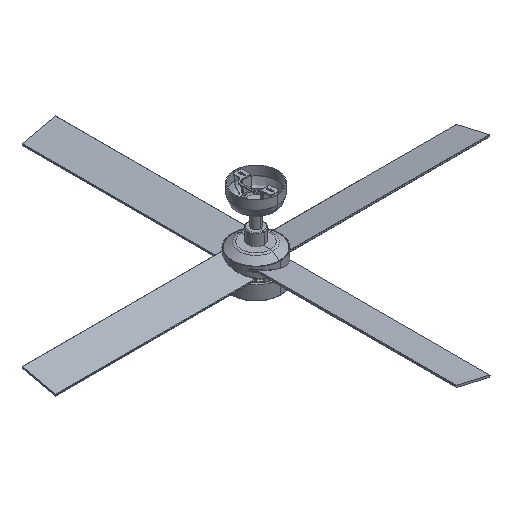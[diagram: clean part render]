
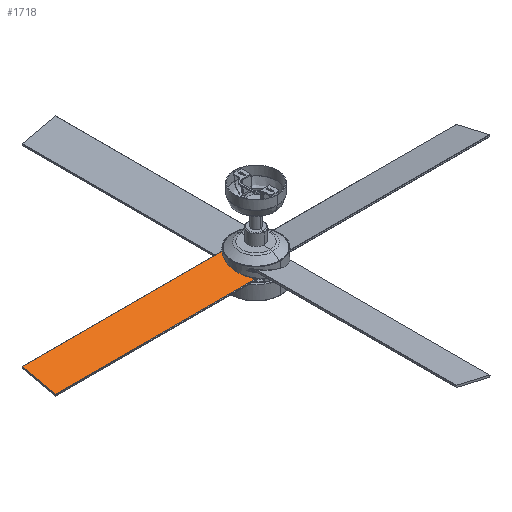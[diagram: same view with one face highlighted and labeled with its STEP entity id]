
A CAD part, isometric view. The second image highlights one B-rep face of the part: STEP entity #1718.
In plain terms, the highlighted planar face has unit normal (0, -0.225, 0.974).
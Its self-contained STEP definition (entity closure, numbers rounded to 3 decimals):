
#132=FACE_BOUND('',#2305,.T.);
#133=FACE_BOUND('',#2306,.T.);
#134=FACE_BOUND('',#2307,.T.);
#1718=ADVANCED_FACE('',(#2005,#132,#133,#134),#6285,.T.);
#2005=FACE_OUTER_BOUND('',#2304,.T.);
#2304=EDGE_LOOP('',(#2800,#2801,#2802,#2803,#2804,#2805));
#2305=EDGE_LOOP('',(#2806,#2807));
#2306=EDGE_LOOP('',(#2808,#2809));
#2307=EDGE_LOOP('',(#2810,#2811));
#2800=ORIENTED_EDGE('',*,*,#4214,.T.);
#2801=ORIENTED_EDGE('',*,*,#4191,.F.);
#2802=ORIENTED_EDGE('',*,*,#4215,.T.);
#2803=ORIENTED_EDGE('',*,*,#4195,.T.);
#2804=ORIENTED_EDGE('',*,*,#4216,.T.);
#2805=ORIENTED_EDGE('',*,*,#4217,.T.);
#2806=ORIENTED_EDGE('',*,*,#4211,.T.);
#2807=ORIENTED_EDGE('',*,*,#4212,.T.);
#2808=ORIENTED_EDGE('',*,*,#4205,.T.);
#2809=ORIENTED_EDGE('',*,*,#4206,.T.);
#2810=ORIENTED_EDGE('',*,*,#4199,.T.);
#2811=ORIENTED_EDGE('',*,*,#4200,.T.);
#4191=EDGE_CURVE('',#5859,#5856,#4909,.T.);
#4195=EDGE_CURVE('',#5861,#5863,#5381,.T.);
#4199=EDGE_CURVE('',#5865,#5867,#5383,.T.);
#4200=EDGE_CURVE('',#5867,#5865,#5384,.T.);
#4205=EDGE_CURVE('',#5869,#5871,#5387,.T.);
#4206=EDGE_CURVE('',#5871,#5869,#5388,.T.);
#4211=EDGE_CURVE('',#5873,#5875,#5391,.T.);
#4212=EDGE_CURVE('',#5875,#5873,#5392,.T.);
#4214=EDGE_CURVE('',#5876,#5856,#4918,.T.);
#4215=EDGE_CURVE('',#5859,#5861,#4919,.T.);
#4216=EDGE_CURVE('',#5863,#5877,#4920,.T.);
#4217=EDGE_CURVE('',#5877,#5876,#4921,.T.);
#4909=B_SPLINE_CURVE_WITH_KNOTS('',1,(#8211,#8212),.UNSPECIFIED.,.F.,.F.,
(2,2),(0.,630.),.UNSPECIFIED.);
#4918=B_SPLINE_CURVE_WITH_KNOTS('',1,(#8271,#8272),.UNSPECIFIED.,.F.,.F.,
(2,2),(0.,103.),.UNSPECIFIED.);
#4919=B_SPLINE_CURVE_WITH_KNOTS('',1,(#8273,#8274),.UNSPECIFIED.,.F.,.F.,
(2,2),(0.,6.315),.UNSPECIFIED.);
#4920=B_SPLINE_CURVE_WITH_KNOTS('',1,(#8275,#8276),.UNSPECIFIED.,.F.,.F.,
(2,2),(0.,4.435),.UNSPECIFIED.);
#4921=B_SPLINE_CURVE_WITH_KNOTS('',1,(#8277,#8278),.UNSPECIFIED.,.F.,.F.,
(2,2),(0.,630.),.UNSPECIFIED.);
#5381=TRIMMED_CURVE($,#5610,(#8221),(#8222),.T.,.CARTESIAN.);
#5383=TRIMMED_CURVE($,#5612,(#8231),(#8232),.T.,.CARTESIAN.);
#5384=TRIMMED_CURVE($,#5613,(#8234),(#8235),.T.,.CARTESIAN.);
#5387=TRIMMED_CURVE($,#5616,(#8247),(#8248),.T.,.CARTESIAN.);
#5388=TRIMMED_CURVE($,#5617,(#8250),(#8251),.T.,.CARTESIAN.);
#5391=TRIMMED_CURVE($,#5620,(#8263),(#8264),.T.,.CARTESIAN.);
#5392=TRIMMED_CURVE($,#5621,(#8266),(#8267),.T.,.CARTESIAN.);
#5610=CIRCLE('',#6714,53.78);
#5612=CIRCLE('',#6716,2.5);
#5613=CIRCLE('',#6717,2.5);
#5616=CIRCLE('',#6720,2.5);
#5617=CIRCLE('',#6721,2.5);
#5620=CIRCLE('',#6724,2.5);
#5621=CIRCLE('',#6725,2.5);
#5856=VERTEX_POINT('',#8171);
#5859=VERTEX_POINT('',#8174);
#5861=VERTEX_POINT('',#8176);
#5863=VERTEX_POINT('',#8178);
#5865=VERTEX_POINT('',#8180);
#5867=VERTEX_POINT('',#8182);
#5869=VERTEX_POINT('',#8184);
#5871=VERTEX_POINT('',#8186);
#5873=VERTEX_POINT('',#8188);
#5875=VERTEX_POINT('',#8190);
#5876=VERTEX_POINT('',#8191);
#5877=VERTEX_POINT('',#8192);
#6285=PLANE('',#6701);
#6701=AXIS2_PLACEMENT_3D('',#8161,#7232,$);
#6714=AXIS2_PLACEMENT_3D($,#8220,#7248,#7249);
#6716=AXIS2_PLACEMENT_3D($,#8230,#7252,#7253);
#6717=AXIS2_PLACEMENT_3D($,#8233,#7254,#7255);
#6720=AXIS2_PLACEMENT_3D($,#8246,#7260,#7261);
#6721=AXIS2_PLACEMENT_3D($,#8249,#7262,#7263);
#6724=AXIS2_PLACEMENT_3D($,#8262,#7268,#7269);
#6725=AXIS2_PLACEMENT_3D($,#8265,#7270,#7271);
#7232=DIRECTION('',(0.,-0.225,0.974));
#7248=DIRECTION('',(0.,0.225,-0.974));
#7249=DIRECTION('',(-0.514,-0.836,-0.193));
#7252=DIRECTION('',(0.,0.225,-0.974));
#7253=DIRECTION('',(0.,0.974,0.225));
#7254=DIRECTION('',(0.,0.225,-0.974));
#7255=DIRECTION('',(0.,-0.974,-0.225));
#7260=DIRECTION('',(0.,0.225,-0.974));
#7261=DIRECTION('',(0.,0.974,0.225));
#7262=DIRECTION('',(0.,0.225,-0.974));
#7263=DIRECTION('',(0.,-0.974,-0.225));
#7268=DIRECTION('',(0.,0.225,-0.974));
#7269=DIRECTION('',(0.,0.974,0.225));
#7270=DIRECTION('',(0.,0.225,-0.974));
#7271=DIRECTION('',(0.,-0.974,-0.225));
#8161=CARTESIAN_POINT('',(-778.328,-2995.164,54.755));
#8171=CARTESIAN_POINT('',(-715.208,-2984.988,57.105));
#8174=CARTESIAN_POINT('',(-85.208,-2984.988,57.105));
#8176=CARTESIAN_POINT('',(-85.208,-2978.835,58.525));
#8178=CARTESIAN_POINT('',(-85.208,-2888.949,79.277));
#8180=CARTESIAN_POINT('',(-102.493,-2886.075,79.941));
#8182=CARTESIAN_POINT('',(-102.493,-2890.947,78.816));
#8184=CARTESIAN_POINT('',(-122.22,-2931.198,69.523));
#8186=CARTESIAN_POINT('',(-122.22,-2936.07,68.398));
#8188=CARTESIAN_POINT('',(-102.371,-2976.196,59.135));
#8190=CARTESIAN_POINT('',(-102.371,-2981.068,58.01));
#8191=CARTESIAN_POINT('',(-715.208,-2884.628,80.275));
#8192=CARTESIAN_POINT('',(-85.208,-2884.628,80.275));
#8211=CARTESIAN_POINT('',(-85.208,-2984.988,57.105));
#8212=CARTESIAN_POINT('',(-715.208,-2984.988,57.105));
#8220=CARTESIAN_POINT('',(-57.553,-2933.892,68.901));
#8221=CARTESIAN_POINT('',(-85.208,-2978.835,58.525));
#8222=CARTESIAN_POINT('',(-85.208,-2888.949,79.277));
#8230=CARTESIAN_POINT('',(-102.493,-2888.511,79.378));
#8231=CARTESIAN_POINT('',(-102.493,-2886.075,79.941));
#8232=CARTESIAN_POINT('',(-102.493,-2890.947,78.816));
#8233=CARTESIAN_POINT('',(-102.493,-2888.511,79.378));
#8234=CARTESIAN_POINT('',(-102.493,-2890.947,78.816));
#8235=CARTESIAN_POINT('',(-102.493,-2886.075,79.941));
#8246=CARTESIAN_POINT('',(-122.22,-2933.634,68.961));
#8247=CARTESIAN_POINT('',(-122.22,-2931.198,69.523));
#8248=CARTESIAN_POINT('',(-122.22,-2936.07,68.398));
#8249=CARTESIAN_POINT('',(-122.22,-2933.634,68.961));
#8250=CARTESIAN_POINT('',(-122.22,-2936.07,68.398));
#8251=CARTESIAN_POINT('',(-122.22,-2931.198,69.523));
#8262=CARTESIAN_POINT('',(-102.371,-2978.632,58.572));
#8263=CARTESIAN_POINT('',(-102.371,-2976.196,59.135));
#8264=CARTESIAN_POINT('',(-102.371,-2981.068,58.01));
#8265=CARTESIAN_POINT('',(-102.371,-2978.632,58.572));
#8266=CARTESIAN_POINT('',(-102.371,-2981.068,58.01));
#8267=CARTESIAN_POINT('',(-102.371,-2976.196,59.135));
#8271=CARTESIAN_POINT('',(-715.208,-2884.628,80.275));
#8272=CARTESIAN_POINT('',(-715.208,-2984.988,57.105));
#8273=CARTESIAN_POINT('',(-85.208,-2984.988,57.105));
#8274=CARTESIAN_POINT('',(-85.208,-2978.835,58.525));
#8275=CARTESIAN_POINT('',(-85.208,-2888.949,79.277));
#8276=CARTESIAN_POINT('',(-85.208,-2884.628,80.275));
#8277=CARTESIAN_POINT('',(-85.208,-2884.628,80.275));
#8278=CARTESIAN_POINT('',(-715.208,-2884.628,80.275));
